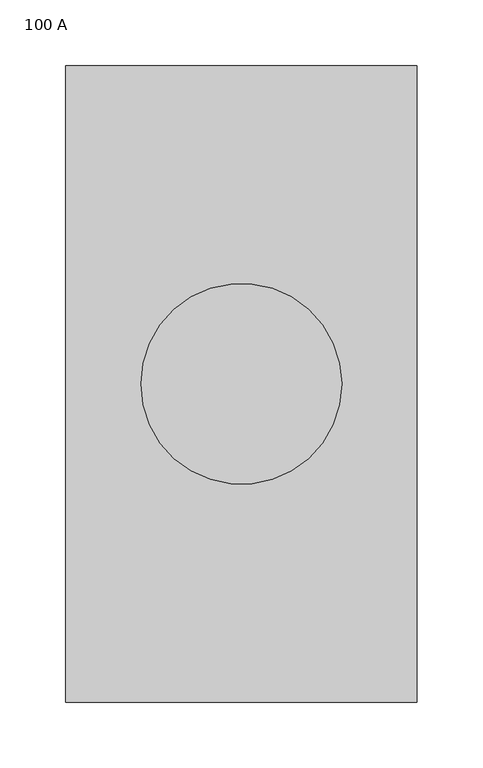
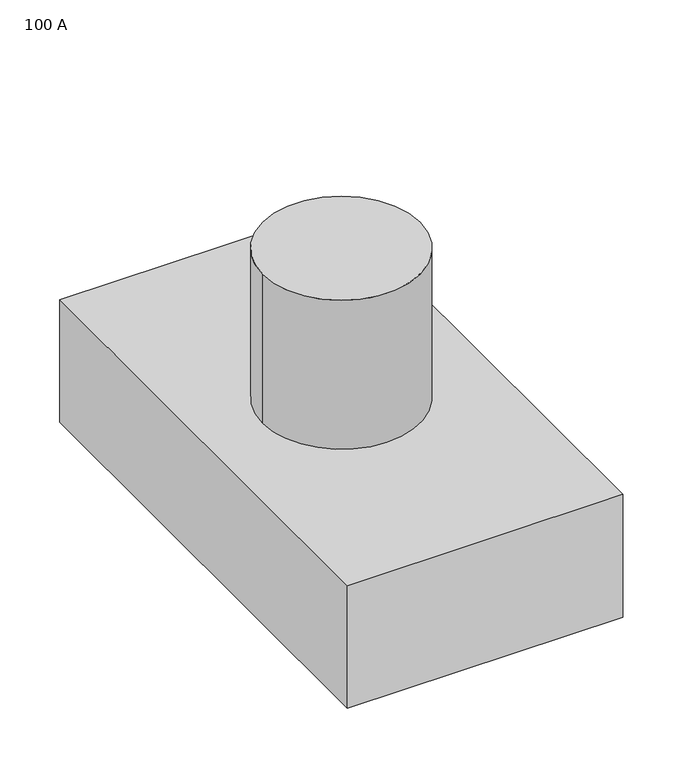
"""IFC4 building model written with IfcOpenShell, lengths in millimetres: proxy geometry, BA_EF - Meter : 100 A."""

import ifcopenshell
import ifcopenshell.guid

model = None  # the IFC model being written
_history = None  # IfcOwnerHistory: only IFC2X3 demands one
_inside = {}  # id of a spatial element -> (the spatial element, [elements in it])
_under = {}  # id of a project, library or spatial element -> (it, [spatial elements below it])
_declared = {}  # id of a project -> (the project, [libraries it declares])
_typed = {}  # id of a type object -> (the type object, [elements of that type])
_made_of = {}  # id of a material, layer set ... -> (it, [elements and type objects made of it])


def new_model(schema):
    """Start an empty IFC model of exactly this schema.

    Asked for "IFC4X3", IfcOpenShell would pick the latest addendum, in which some entities
    have other attributes; the version numbers below select the first issue.
    IFC2X3 requires an IfcOwnerHistory on every rooted entity: one is made here for all.
    """
    global model, _history
    if schema == "IFC4X3":
        model = ifcopenshell.file(schema_version=(4, 3, 0, 0))
    else:
        model = ifcopenshell.file(schema=schema)
    _inside.clear()
    _under.clear()
    _declared.clear()
    _typed.clear()
    _made_of.clear()
    _history = None
    if model.schema == "IFC2X3":
        org = make("IfcOrganization", Name="unknown")
        user = make(
            "IfcPersonAndOrganization",
            ThePerson=make("IfcPerson", FamilyName="unknown"),
            TheOrganization=org,
        )
        app = make(
            "IfcApplication",
            ApplicationDeveloper=org,
            Version="unknown",
            ApplicationFullName="unknown",
            ApplicationIdentifier="unknown",
        )
        _history = make(
            "IfcOwnerHistory",
            OwningUser=user,
            OwningApplication=app,
            ChangeAction="ADDED",
            CreationDate=0,
        )
    return model


def make(cls, **values):
    """One entity of the class cls with the attributes given. An attribute that is None is left unset."""
    return model.create_entity(
        cls, **{name: value for name, value in values.items() if value is not None}
    )


def rooted(cls, **values):
    """An entity with a GlobalId (a new one), such as an element, a storey or a relation."""
    return make(cls, GlobalId=ifcopenshell.guid.new(), OwnerHistory=_history, **values)


def si_unit(unit_type, name, prefix=None):
    """IfcSIUnit, for example si_unit("LENGTHUNIT", "METRE", prefix="MILLI")."""
    return make("IfcSIUnit", UnitType=unit_type, Prefix=prefix, Name=name)


def assignment(units):
    """IfcUnitAssignment: the units of a project."""
    return None if units is None else make("IfcUnitAssignment", Units=units)


def point(xyz):
    """IfcCartesianPoint."""
    return None if xyz is None else make("IfcCartesianPoint", Coordinates=xyz)


def direction(xyz):
    """IfcDirection."""
    return None if xyz is None else make("IfcDirection", DirectionRatios=xyz)


def frame(location, z_axis=None, x_axis=None):
    """IfcAxis2Placement3D, a coordinate frame: its origin and axes. An axis left out is left unset."""
    return make(
        "IfcAxis2Placement3D",
        Location=point(location),
        Axis=direction(z_axis),
        RefDirection=direction(x_axis),
    )


def frame_2d(location, x_axis=None):
    """IfcAxis2Placement2D, a coordinate frame in the plane: its origin and x axis."""
    return make(
        "IfcAxis2Placement2D", Location=point(location), RefDirection=direction(x_axis)
    )


def origin():
    """The frame at (0, 0, 0) with its axes left unset."""
    return frame((0.0, 0.0, 0.0))


def origin_with_axes():
    """The frame at (0, 0, 0) with the z axis (0, 0, 1) and the x axis (1, 0, 0) written out."""
    return frame((0.0, 0.0, 0.0), z_axis=(0.0, 0.0, 1.0), x_axis=(1.0, 0.0, 0.0))


def origin_2d():
    """The frame at (0, 0) in the plane with its x axis left unset."""
    return frame_2d((0.0, 0.0))


def place(relative_to, where):
    """IfcLocalPlacement: puts the frame where relative to a parent placement (None: the world)."""
    return make(
        "IfcLocalPlacement", PlacementRelTo=relative_to, RelativePlacement=where
    )


def context(
    kind, dimensions, precision=None, world=None, true_north=None, identifier=None
):
    """IfcGeometricRepresentationContext, for example the 3D "Model" context."""
    return make(
        "IfcGeometricRepresentationContext",
        ContextIdentifier=identifier,
        ContextType=kind,
        CoordinateSpaceDimension=dimensions,
        Precision=precision,
        WorldCoordinateSystem=world,
        TrueNorth=true_north,
    )


def project(units=None, contexts=None):
    """IfcProject with its units and contexts."""
    return rooted(
        "IfcProject",
        Name="project",
        RepresentationContexts=contexts,
        UnitsInContext=assignment(units),
    )


def spatial(cls, under=None, at=None, **own):
    """A site, building, storey or space (cls), placed at a placement, below another one or the project."""
    s = rooted(cls, ObjectPlacement=at, **own)
    if under is not None:
        _under.setdefault(under.id(), (under, []))[1].append(s)
    return s


def polyline(points):
    """IfcPolyline through the points."""
    return make("IfcPolyline", Points=[point(p) for p in points])


def circle_curve(where, radius):
    """IfcCircle in the frame where."""
    return make("IfcCircle", Position=where, Radius=radius)


def trimmed(basis, trim1, trim2, sense, master):
    """IfcTrimmedCurve: the piece of a basis curve between two trims."""
    return make(
        "IfcTrimmedCurve",
        BasisCurve=basis,
        Trim1=trim1,
        Trim2=trim2,
        SenseAgreement=sense,
        MasterRepresentation=master,
    )


def segment(curve, same_sense, transition):
    """IfcCompositeCurveSegment."""
    return make(
        "IfcCompositeCurveSegment",
        Transition=transition,
        SameSense=same_sense,
        ParentCurve=curve,
    )


def composite_curve(segments, self_intersect=None):
    """IfcCompositeCurve: segments joined end to end."""
    return make("IfcCompositeCurve", Segments=segments, SelfIntersect=self_intersect)


def outline(outer, holes=None, kind="AREA"):
    """IfcArbitraryClosedProfileDef: a profile drawn as a closed curve; with holes, ...WithVoids."""
    if holes is None:
        return make("IfcArbitraryClosedProfileDef", ProfileType=kind, OuterCurve=outer)
    return make(
        "IfcArbitraryProfileDefWithVoids",
        ProfileType=kind,
        OuterCurve=outer,
        InnerCurves=holes,
    )


def extrude(swept, where, along, depth):
    """IfcExtrudedAreaSolid: the profile swept, set in the frame where, extruded along a direction by depth."""
    return make(
        "IfcExtrudedAreaSolid",
        SweptArea=swept,
        Position=where,
        ExtrudedDirection=direction(along),
        Depth=depth,
    )


def shape(context_of_items, identifier, shape_type, items):
    """IfcShapeRepresentation: the items that make up one representation, for example the "Body"."""
    return make(
        "IfcShapeRepresentation",
        ContextOfItems=context_of_items,
        RepresentationIdentifier=identifier,
        RepresentationType=shape_type,
        Items=items,
    )


def source(mapping_origin, context_of_items, identifier, shape_type, items):
    """IfcRepresentationMap: a shape defined once, which mapped items show again and again."""
    return make(
        "IfcRepresentationMap",
        MappingOrigin=mapping_origin,
        MappedRepresentation=shape(context_of_items, identifier, shape_type, items),
    )


def transform(
    local_origin,
    x_axis=None,
    y_axis=None,
    z_axis=None,
    scale=None,
    scale2=None,
    scale3=None,
    uniform=True,
):
    """IfcCartesianTransformationOperator3D, or its non-uniform kind. x_axis, y_axis, z_axis: its Axis1, 2, 3."""
    if uniform:
        return make(
            "IfcCartesianTransformationOperator3D",
            Axis1=direction(x_axis),
            Axis2=direction(y_axis),
            LocalOrigin=point(local_origin),
            Scale=scale,
            Axis3=direction(z_axis),
        )
    return make(
        "IfcCartesianTransformationOperator3DnonUniform",
        Axis1=direction(x_axis),
        Axis2=direction(y_axis),
        LocalOrigin=point(local_origin),
        Scale=scale,
        Axis3=direction(z_axis),
        Scale2=scale2,
        Scale3=scale3,
    )


def mapped(mapping_source, mapping_target):
    """IfcMappedItem: shows the shape of a source again, moved by a transform."""
    return make(
        "IfcMappedItem", MappingSource=mapping_source, MappingTarget=mapping_target
    )


def made_of(thing, what):
    """Note that an element or type object is made of a material, layer set ...; save() writes the relation."""
    if what is not None:
        _made_of.setdefault(what.id(), (what, []))[1].append(thing)
    return thing


def element(
    cls,
    number,
    at=None,
    inside=None,
    cuts=None,
    type_object=None,
    material=None,
    context=None,
    identifier="Body",
    shape_type=None,
    held_by="IfcProductDefinitionShape",
    body=None,
    shapes=None,
    **own,
):
    """One element of the class cls, such as IfcWall. Its Tag is "e" and its number.

    at: its placement. inside: the storey or other place that contains it. cuts: it is an
    opening in that element (IfcRelVoidsElement). A single representation is given by context,
    identifier, shape_type and body (its items); several are given by shapes. held_by: the class
    of the entity that holds the representations. save() writes the other relations.
    """
    e = rooted(cls, Tag="e%d" % number, ObjectPlacement=at, **own)
    if body is not None:
        shapes = [shape(context, identifier, shape_type, body)]
    if shapes is not None:
        e.Representation = make(held_by, Representations=shapes)
    if inside is not None:
        _inside.setdefault(inside.id(), (inside, []))[1].append(e)
    if cuts is not None:
        rooted(
            "IfcRelVoidsElement", RelatingBuildingElement=cuts, RelatedOpeningElement=e
        )
    if type_object is not None:
        _typed.setdefault(type_object.id(), (type_object, []))[1].append(e)
    return made_of(e, material)


def aggregate(whole, parts):
    """IfcRelAggregates: a whole, such as a stair, and the parts it consists of."""
    return rooted("IfcRelAggregates", RelatingObject=whole, RelatedObjects=parts)


def save(model, path):
    """Write the relations noted so far, then the file.

    IfcRelAggregates (storeys below a building ...), IfcRelContainedInSpatialStructure (elements
    in a storey), IfcRelDefinesByType, IfcRelAssociatesMaterial and IfcRelDeclares: one each for
    every whole, place, type object, material and project.
    """
    for whole, parts in _under.values():
        aggregate(whole, parts)
    for where, things in _inside.values():
        rooted(
            "IfcRelContainedInSpatialStructure",
            RelatedElements=things,
            RelatingStructure=where,
        )
    for kind, things in _typed.values():
        rooted("IfcRelDefinesByType", RelatedObjects=things, RelatingType=kind)
    for what, things in _made_of.values():
        rooted("IfcRelAssociatesMaterial", RelatedObjects=things, RelatingMaterial=what)
    for by, libraries in _declared.values():
        rooted("IfcRelDeclares", RelatingContext=by, RelatedDefinitions=libraries)
    model.write(path)


def proxy_100_a_191a7334(model_context):
    return source(origin(), model_context, "Body", "SweptSolid", [
        extrude(outline(composite_curve([segment(trimmed(circle_curve(origin_2d(), 76.2), [point((-76.2, 0.0))], [point((76.2, 0.0))], False, "CARTESIAN"), True, "CONTINUOUS"), segment(trimmed(circle_curve(origin_2d(), 76.2), [point((76.2, 0.0))], [point((-76.2, 0.0))], False, "CARTESIAN"), True, "CONTINUOUS")], self_intersect=False)), frame((0.0, 0.0, 125.5117188), z_axis=(0.0, 0.0, 1.0), x_axis=(1.0, 0.0, 0.0)), (0.0, 0.0, 1.0), 152.4),
        extrude(outline(polyline([(133.35, 241.3), (133.35, -241.3), (-133.35, -241.3), (-133.35, 241.3), (133.35, 241.3)])), origin_with_axes(), (0.0, 0.0, 1.0), 125.5117188),
    ])


if __name__ == "__main__":
    model = new_model("IFC4")
    model_context = context("Model", 3, world=origin())
    ifc_project = project(units=[si_unit("LENGTHUNIT", "METRE", prefix="MILLI")], contexts=[model_context])
    site = spatial("IfcSite", under=ifc_project)
    building = spatial("IfcBuilding", under=site)
    placement = place(None, origin())
    proxy_100_a_shape = proxy_100_a_191a7334(model_context)
    element("IfcBuildingElementProxy", 1, Name="BA_EF - Meter : 100 A", ObjectType="BA_EF - Meter : 100 A", at=placement, inside=building, context=model_context, shape_type="MappedRepresentation", body=[
        mapped(proxy_100_a_shape, transform((0.0, 0.0, 0.0), x_axis=(1.0, 0.0, 0.0), y_axis=(0.0, 1.0, 0.0), z_axis=(0.0, 0.0, 1.0))),
    ])
    save(model, "model.ifc")
